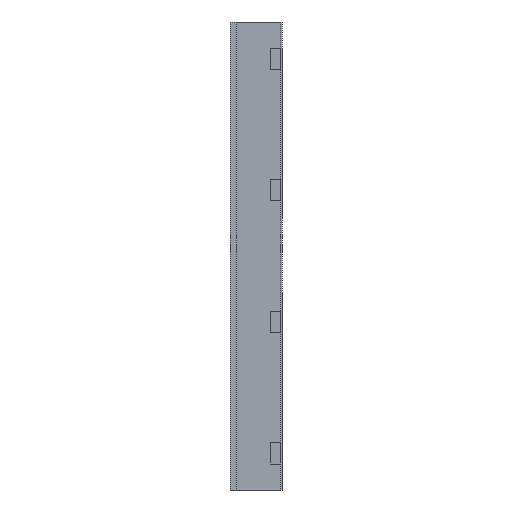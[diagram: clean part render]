
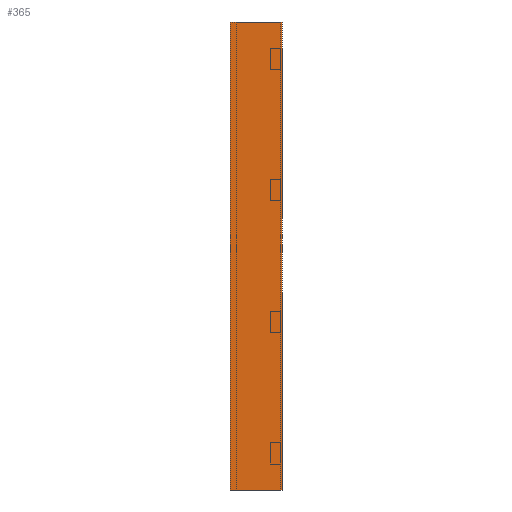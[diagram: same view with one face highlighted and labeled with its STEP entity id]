
A CAD part, left-side view. The second image highlights one B-rep face of the part: STEP entity #365.
In plain terms, the highlighted planar face has unit normal (-1, 0, 0).
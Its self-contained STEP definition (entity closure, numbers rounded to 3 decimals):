
#1 = DIRECTION ( 'NONE',  ( 0., 0., 1. ) ) ;
#21 = CARTESIAN_POINT ( 'NONE',  ( 0., 0., -900. ) ) ;
#44 = DIRECTION ( 'NONE',  ( 0., 0., 1. ) ) ;
#88 = VERTEX_POINT ( 'NONE', #388 ) ;
#251 = VERTEX_POINT ( 'NONE', #1193 ) ;
#275 = VECTOR ( 'NONE', #44, 1000. ) ;
#279 = LINE ( 'NONE', #1636, #908 ) ;
#291 = CARTESIAN_POINT ( 'NONE',  ( 0., 100., -900. ) ) ;
#309 = DIRECTION ( 'NONE',  ( 0., -1., 0. ) ) ;
#343 = EDGE_CURVE ( 'NONE', #88, #516, #279, .T. ) ;
#365 = ADVANCED_FACE ( 'NONE', ( #1137 ), #475, .T. ) ;
#388 = CARTESIAN_POINT ( 'NONE',  ( 0., 100., 0. ) ) ;
#475 = PLANE ( 'NONE',  #1370 ) ;
#489 = EDGE_CURVE ( 'NONE', #1421, #251, #812, .T. ) ;
#516 = VERTEX_POINT ( 'NONE', #1013 ) ;
#736 = EDGE_CURVE ( 'NONE', #251, #516, #1195, .T. ) ;
#753 = ORIENTED_EDGE ( 'NONE', *, *, #489, .T. ) ;
#802 = DIRECTION ( 'NONE',  ( 0., -1., 0. ) ) ;
#812 = LINE ( 'NONE', #1085, #1364 ) ;
#816 = EDGE_CURVE ( 'NONE', #1421, #88, #833, .T. ) ;
#833 = LINE ( 'NONE', #291, #275 ) ;
#908 = VECTOR ( 'NONE', #802, 1000. ) ;
#999 = DIRECTION ( 'NONE',  ( -1., 0., 0. ) ) ;
#1013 = CARTESIAN_POINT ( 'NONE',  ( 0., 0., 0. ) ) ;
#1085 = CARTESIAN_POINT ( 'NONE',  ( 0., 0., -900. ) ) ;
#1102 = ORIENTED_EDGE ( 'NONE', *, *, #816, .F. ) ;
#1137 = FACE_OUTER_BOUND ( 'NONE', #1225, .T. ) ;
#1193 = CARTESIAN_POINT ( 'NONE',  ( 0., 0., -900. ) ) ;
#1195 = LINE ( 'NONE', #21, #1423 ) ;
#1225 = EDGE_LOOP ( 'NONE', ( #1643, #1102, #753, #1445 ) ) ;
#1364 = VECTOR ( 'NONE', #309, 1000. ) ;
#1370 = AXIS2_PLACEMENT_3D ( 'NONE', #1655, #999, #1526 ) ;
#1421 = VERTEX_POINT ( 'NONE', #1449 ) ;
#1423 = VECTOR ( 'NONE', #1, 1000. ) ;
#1445 = ORIENTED_EDGE ( 'NONE', *, *, #736, .T. ) ;
#1449 = CARTESIAN_POINT ( 'NONE',  ( 0., 100., -900. ) ) ;
#1526 = DIRECTION ( 'NONE',  ( 0., 0., 1. ) ) ;
#1636 = CARTESIAN_POINT ( 'NONE',  ( 0., 0., 0. ) ) ;
#1643 = ORIENTED_EDGE ( 'NONE', *, *, #343, .F. ) ;
#1655 = CARTESIAN_POINT ( 'NONE',  ( 0., 0., -900. ) ) ;
